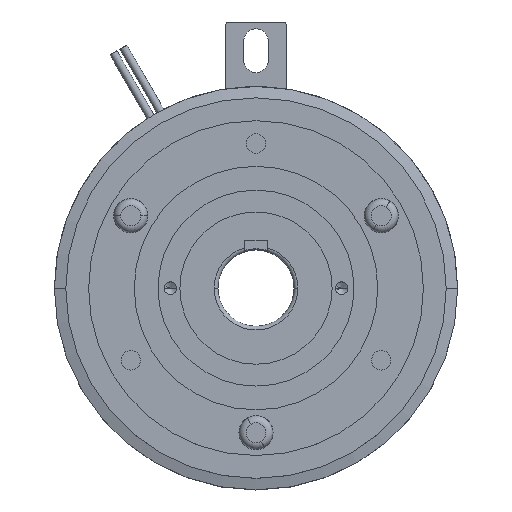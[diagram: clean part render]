
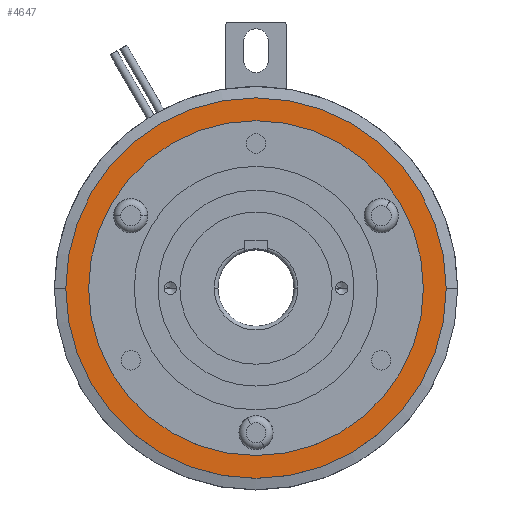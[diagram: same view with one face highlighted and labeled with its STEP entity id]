
A CAD part, top view. The second image highlights one B-rep face of the part: STEP entity #4647.
In plain terms, the highlighted planar face has unit normal (0, 0, 1).
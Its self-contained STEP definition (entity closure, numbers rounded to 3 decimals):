
#132 = CIRCLE ( 'NONE', #5605, 50. ) ;
#142 = CIRCLE ( 'NONE', #5608, 44. ) ;
#189 = ORIENTED_EDGE ( 'NONE', *, *, #5672, .T. ) ;
#374 = ORIENTED_EDGE ( 'NONE', *, *, #5678, .F. ) ;
#400 = ORIENTED_EDGE ( 'NONE', *, *, #6021, .T. ) ;
#430 = ORIENTED_EDGE ( 'NONE', *, *, #6023, .F. ) ;
#862 = PLANE ( 'NONE',  #2369 ) ;
#867 = DIRECTION ( 'NONE',  ( 1., 0., 0. ) ) ;
#868 = DIRECTION ( 'NONE',  ( 0., 0., 1. ) ) ;
#869 = CARTESIAN_POINT ( 'NONE',  ( 0., 0., 35.4 ) ) ;
#974 = EDGE_LOOP ( 'NONE', ( #400, #189 ) ) ;
#1107 = EDGE_LOOP ( 'NONE', ( #430, #374 ) ) ;
#2369 = AXIS2_PLACEMENT_3D ( 'NONE', #869, #868, #867 ) ;
#4009 = CARTESIAN_POINT ( 'NONE',  ( 0., 0., 35.4 ) ) ;
#4010 = DIRECTION ( 'NONE',  ( 0., 0., 1. ) ) ;
#4011 = DIRECTION ( 'NONE',  ( 1., 0., 0. ) ) ;
#4025 = CARTESIAN_POINT ( 'NONE',  ( 0., 0., 35.4 ) ) ;
#4026 = DIRECTION ( 'NONE',  ( 0., 0., 1. ) ) ;
#4027 = DIRECTION ( 'NONE',  ( 1., 0., 0. ) ) ;
#4130 = CARTESIAN_POINT ( 'NONE',  ( 50., 0., 35.4 ) ) ;
#4213 = CARTESIAN_POINT ( 'NONE',  ( -44., 0., 35.4 ) ) ;
#4214 = CARTESIAN_POINT ( 'NONE',  ( -50., 0., 35.4 ) ) ;
#4284 = CARTESIAN_POINT ( 'NONE',  ( 44., 0., 35.4 ) ) ;
#4357 = CARTESIAN_POINT ( 'NONE',  ( 0., 0., 35.4 ) ) ;
#4358 = DIRECTION ( 'NONE',  ( 0., 0., 1. ) ) ;
#4359 = DIRECTION ( 'NONE',  ( 1., 0., 0. ) ) ;
#4363 = CARTESIAN_POINT ( 'NONE',  ( 0., 0., 35.4 ) ) ;
#4364 = DIRECTION ( 'NONE',  ( 0., 0., 1. ) ) ;
#4365 = DIRECTION ( 'NONE',  ( 1., 0., 0. ) ) ;
#4447 = CIRCLE ( 'NONE', #5640, 50. ) ;
#4449 = CIRCLE ( 'NONE', #5642, 44. ) ;
#4647 = ADVANCED_FACE ( 'NONE', ( #5226, #5219 ), #862, .T. ) ;
#5219 = FACE_OUTER_BOUND ( 'NONE', #974, .T. ) ;
#5226 = FACE_BOUND ( 'NONE', #1107, .T. ) ;
#5605 = AXIS2_PLACEMENT_3D ( 'NONE', #4009, #4010, #4011 ) ;
#5608 = AXIS2_PLACEMENT_3D ( 'NONE', #4025, #4026, #4027 ) ;
#5640 = AXIS2_PLACEMENT_3D ( 'NONE', #4357, #4358, #4359 ) ;
#5642 = AXIS2_PLACEMENT_3D ( 'NONE', #4363, #4364, #4365 ) ;
#5672 = EDGE_CURVE ( 'NONE', #5832, #5919, #132, .T. ) ;
#5678 = EDGE_CURVE ( 'NONE', #5989, #5918, #142, .T. ) ;
#5832 = VERTEX_POINT ( 'NONE', #4130 ) ;
#5918 = VERTEX_POINT ( 'NONE', #4213 ) ;
#5919 = VERTEX_POINT ( 'NONE', #4214 ) ;
#5989 = VERTEX_POINT ( 'NONE', #4284 ) ;
#6021 = EDGE_CURVE ( 'NONE', #5919, #5832, #4447, .T. ) ;
#6023 = EDGE_CURVE ( 'NONE', #5918, #5989, #4449, .T. ) ;
